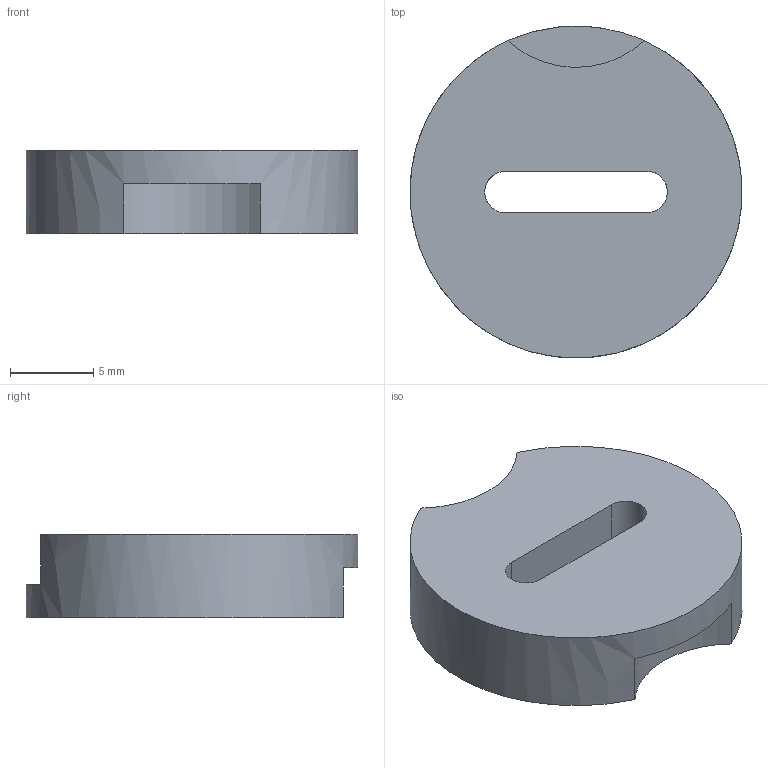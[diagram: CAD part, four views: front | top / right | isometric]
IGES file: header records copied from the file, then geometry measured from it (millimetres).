
Start section: C
Global section: file name: MOO20.igs; native system: By Siemens PLM Incorporated; preprocessor: XPlus GENERIC/IGES 18.0.17; author: Author; organization: Title; date: 20240726.164002; units: millimetre
Bounding box: 19.99 x 19.99 x 5 mm (x, y, z)
Volume: 1356 mm3; surface area: 1026 mm2
Topology: 1 solids, 1 shells, 218 faces, 575 edges, 383 vertices
Faces by surface type: bspline 218
